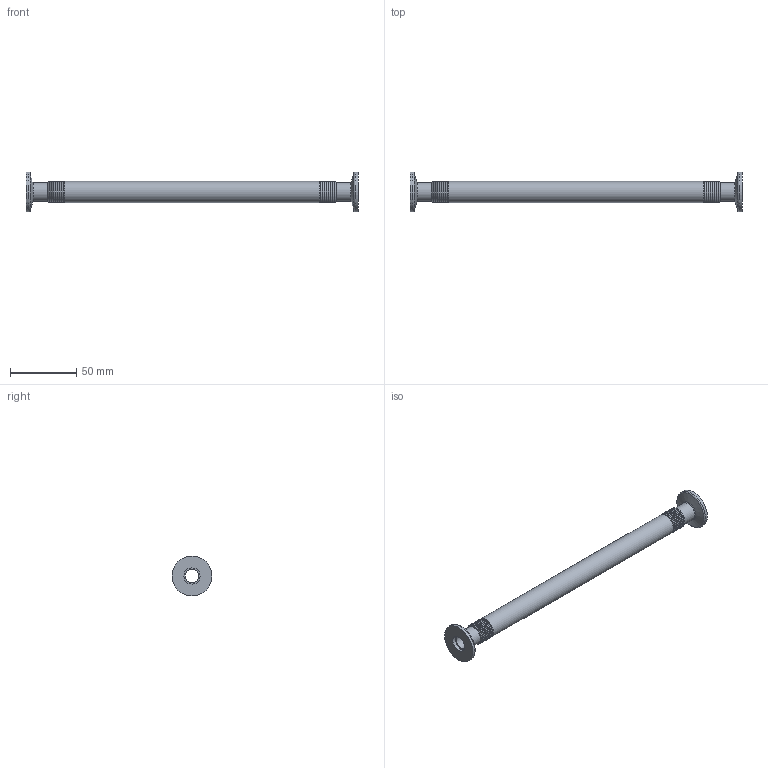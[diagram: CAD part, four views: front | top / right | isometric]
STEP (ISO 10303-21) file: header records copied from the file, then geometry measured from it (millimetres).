
FILE_DESCRIPTION(/* description */ (''),/* implementation_level */ '2;1');
FILE_NAME(/* name */ 'W:\Änderung_Wellschläuche_DN10KF\STP-Files\M211-331.stp',/* time_stamp */ '2014-11-13T09:28:42+01:00',/* author */ ('KAA'),/* organization */ (''),/* preprocessor_version */ 'ST-DEVELOPER v15.2',/* originating_system */ 'Autodesk Inventor 2014',/* authorisation */ '');
FILE_SCHEMA (('CONFIG_CONTROL_DESIGN'));
Length unit declared in the file: millimetre
Products named in the file (1): M211-331
Bounding box: 250 x 30 x 30 mm (x, y, z)
Volume: 8661.8 mm3; surface area: 32830.8 mm2
Topology: 1 solids, 1 shells, 164 faces, 254 edges, 166 vertices
Faces by surface type: plane 76, torus 76, cylinder 10, cone 2
Full cylindrical faces by diameter (mm): 10 x2, 12.2 x2, 14 x2, 15.6 x1, 15.9 x1, 30 x2
Entity records: 3473 total; most frequent: DIRECTION 658, CARTESIAN_POINT 493, AXIS2_PLACEMENT_3D 329, EDGE_LOOP 328, ORIENTED_EDGE 328, FACE_BOUND 200, STYLED_ITEM 165, CIRCLE 164
